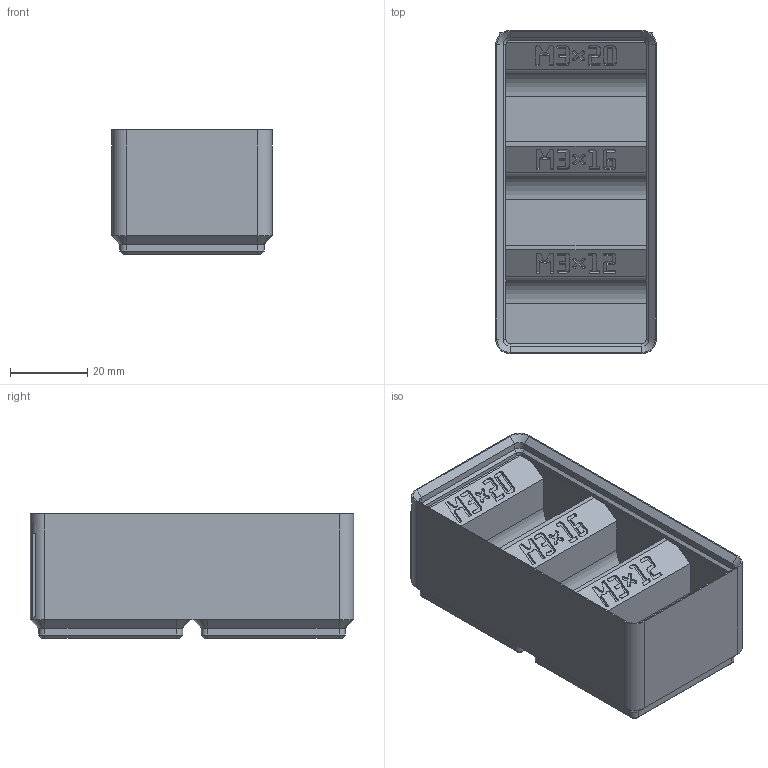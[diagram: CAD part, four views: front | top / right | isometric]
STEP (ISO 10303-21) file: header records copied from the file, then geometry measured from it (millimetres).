
FILE_DESCRIPTION(('Open CASCADE Model'),'2;1');
FILE_NAME('Open CASCADE Shape Model','2026-11-16T17:23:22',('Author'),( 'Open CASCADE'),'Open CASCADE STEP processor 8.0','build123d', 'Unknown');
FILE_SCHEMA(('AUTOMOTIVE_DESIGN { 1 0 10303 214 1 1 1 1 }'));
Products named in the file (1): COMPOUND
Bounding box: 41.5 x 83.5 x 32.1 mm (x, y, z)
Volume: 46090.1 mm3; surface area: 22454.5 mm2
Topology: 1 solids, 1 shells, 1694 faces, 4948 edges, 3278 vertices
Faces by surface type: plane 1641, cone 28, cylinder 25
Entity records: 118976 total; most frequent: CARTESIAN_POINT 20253, DIRECTION 17988, LINE 14410, VECTOR 14410, ORIENTED_EDGE 9896, PCURVE 9896, DEFINITIONAL_REPRESENTATION 9896, EDGE_CURVE 4948
